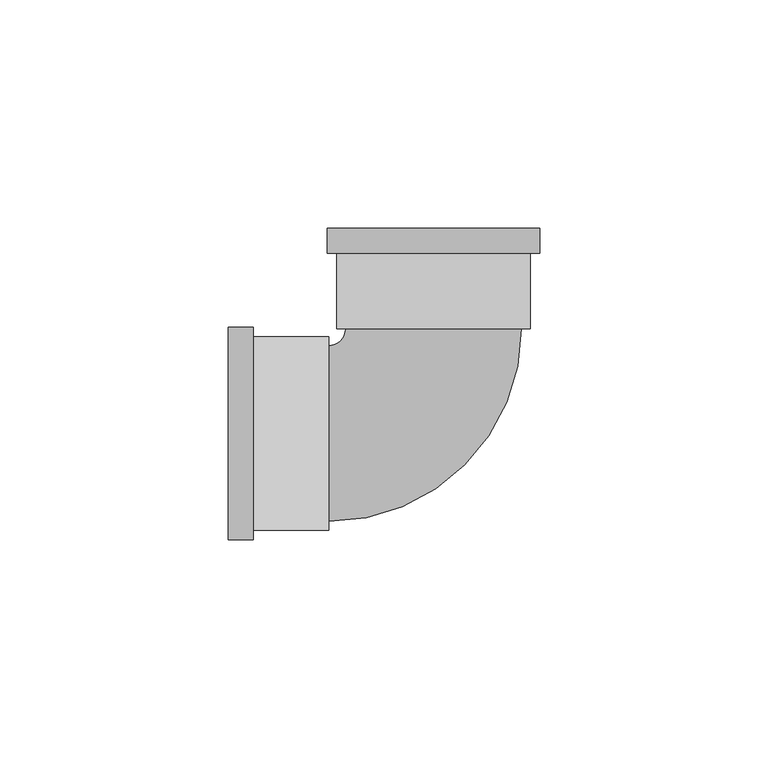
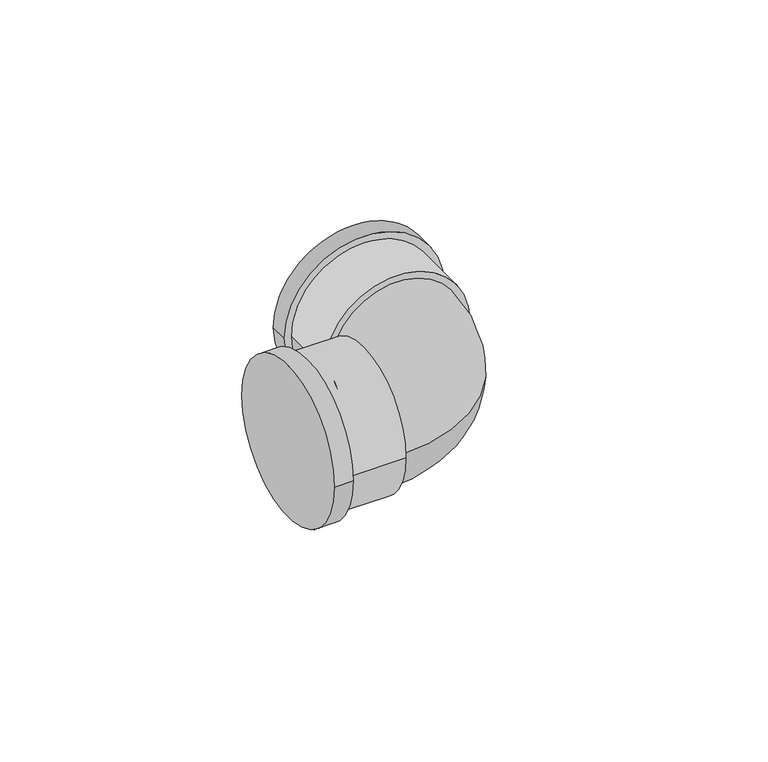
"""IFC4 building model written with IfcOpenShell, lengths in millimetres: pipe fitting geometry, Cotovelo - PVC - CW : Padrão."""

from ifc_helpers import new_model, si_unit, point, frame, origin, place, context, project, spatial, circle_curve, ellipse_curve, trimmed, source, transform, mapped, element, save
from ifc_brep_helpers import plane_surface, cylinder_surface, revolved_surface, advanced_brep


def pipe_fitting_753a0326(model_context):
    return source(origin(), model_context, "Body", "AdvancedBrep", [
        advanced_brep(
        [(-45.0002447, -23.2925, 0.0), (-45.0002447, 23.2925, 0.0), (-39.5002447, -23.2925, 0.0), (-39.5002447, 23.2925, 0.0), (-39.5002447, -21.175, 0.0), (-39.5002447, 21.175, 0.0), (-23.0002447, 21.175, 0.0), (-23.0002447, -21.175, 0.0), (-23.0002447, -19.25, 0.0), (-23.0002447, 19.25, 0.0), (-19.2502447, 23.0000399, 0.0), (19.2497553, 23.0004494, 0.0), (21.1747553, 23.0004699, 0.0), (-21.1752447, 23.0000194, 0.0), (-23.2929787, 44.9999969, 0.0), (23.2920213, 45.0004924, 0.0), (21.1745798, 39.5004699, 0.0), (-21.1754202, 39.5000194, 0.0), (-23.2929202, 39.4999969, 0.0), (23.2920798, 39.5004924, 0.0)],
        [
            (0, 1, circle_curve(frame((-45.0002447, 0.0, 0.0), z_axis=(-1.0, 0.0, 0.0), x_axis=(0.0, 1.0, 0.0)), 23.2925)),
            (1, 0, circle_curve(frame((-45.0002447, 0.0, 0.0), z_axis=(-1.0, 0.0, 0.0), x_axis=(0.0, 1.0, 0.0)), 23.2925)),
            (2, 3, circle_curve(frame((-39.5002447, 0.0, 0.0), z_axis=(1.0, 0.0, 0.0), x_axis=(0.0, 1.0, 0.0)), 23.2925)),
            (3, 2, circle_curve(frame((-39.5002447, 0.0, 0.0), z_axis=(1.0, 0.0, 0.0), x_axis=(0.0, 1.0, 0.0)), 23.2925)),
            (4, 5, circle_curve(frame((-39.5002447, 0.0, 0.0), z_axis=(-1.0, 0.0, 0.0), x_axis=(0.0, -1.0, 0.0)), 21.175)),
            (5, 4, circle_curve(frame((-39.5002447, 0.0, 0.0), z_axis=(-1.0, 0.0, 0.0), x_axis=(0.0, -1.0, 0.0)), 21.175)),
            (0, 2),
            (3, 1),
            (6, 7, circle_curve(frame((-23.0002447, 0.0, 0.0), z_axis=(1.0, 0.0, 0.0), x_axis=(0.0, -1.0, 0.0)), 21.175)),
            (7, 6, circle_curve(frame((-23.0002447, 0.0, 0.0), z_axis=(1.0, 0.0, 0.0), x_axis=(0.0, -1.0, 0.0)), 21.175)),
            (8, 9, circle_curve(frame((-23.0002447, 0.0, 0.0), z_axis=(-1.0, 0.0, 0.0), x_axis=(0.0, 1.0, 0.0)), 19.25)),
            (9, 8, circle_curve(frame((-23.0002447, 0.0, 0.0), z_axis=(-1.0, 0.0, 0.0), x_axis=(0.0, 1.0, 0.0)), 19.25)),
            (6, 5),
            (4, 7),
            (10, 9, circle_curve(frame((-23.0002447, 23.0, 0.0), z_axis=(0.0, 0.0, -1.0), x_axis=(0.0, -1.0, 0.0)), 3.75)),
            (8, 11, circle_curve(frame((-23.0002447, 23.0, 0.0), z_axis=(0.0, 0.0, 1.0), x_axis=(0.0, -1.0, 0.0)), 42.25)),
            (11, 10, circle_curve(frame((-0.0002447, 23.0002447, 0.0), z_axis=(1.0637566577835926e-05, -0.999999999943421, 0.0), x_axis=(-0.999999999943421, -1.0637566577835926e-05, 0.0)), 19.25)),
            (10, 11, circle_curve(frame((-0.0002447, 23.0002447, 0.0), z_axis=(1.0637566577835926e-05, -0.999999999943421, 0.0), x_axis=(-0.999999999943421, -1.0637566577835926e-05, 0.0)), 19.25)),
            (12, 13, circle_curve(frame((-0.0002447, 23.0002447, 0.0), z_axis=(1.0637567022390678e-05, -0.9999999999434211, 0.0), x_axis=(-0.9999999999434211, -1.0637567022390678e-05, 0.0)), 21.175)),
            (13, 12, circle_curve(frame((-0.0002447, 23.0002447, 0.0), z_axis=(1.0637567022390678e-05, -0.9999999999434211, 0.0), x_axis=(-0.9999999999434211, -1.0637567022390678e-05, 0.0)), 21.175)),
            (14, 15, circle_curve(frame((-0.0004787, 45.0002447, 0.0), z_axis=(-1.0637566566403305e-05, 0.9999999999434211, 0.0), x_axis=(0.9999999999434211, 1.0637566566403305e-05, 0.0)), 23.2925)),
            (15, 14, circle_curve(frame((-0.0004787, 45.0002447, 0.0), z_axis=(-1.0637566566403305e-05, 0.9999999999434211, 0.0), x_axis=(0.9999999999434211, 1.0637566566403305e-05, 0.0)), 23.2925)),
            (12, 16),
            (16, 17, circle_curve(frame((-0.0004202, 39.5002447, 0.0), z_axis=(1.0637567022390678e-05, -0.9999999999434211, 0.0), x_axis=(-0.9999999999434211, -1.0637567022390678e-05, 0.0)), 21.175)),
            (17, 13),
            (17, 16, circle_curve(frame((-0.0004202, 39.5002447, 0.0), z_axis=(1.0637567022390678e-05, -0.9999999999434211, 0.0), x_axis=(-0.9999999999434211, -1.0637567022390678e-05, 0.0)), 21.175)),
            (18, 19, circle_curve(frame((-0.0004202, 39.5002447, 0.0), z_axis=(1.0637566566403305e-05, -0.9999999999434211, 0.0), x_axis=(0.9999999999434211, 1.0637566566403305e-05, 0.0)), 23.2925)),
            (19, 18, circle_curve(frame((-0.0004202, 39.5002447, 0.0), z_axis=(1.0637566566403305e-05, -0.9999999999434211, 0.0), x_axis=(0.9999999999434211, 1.0637566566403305e-05, 0.0)), 23.2925)),
            (14, 18),
            (19, 15),
        ],
        [
            plane_surface(frame((-45.0002447, 0.0, 0.0), z_axis=(-1.0, 0.0, 0.0), x_axis=(0.0, 0.0, 1.0))),
            plane_surface(frame((-39.5002447, 0.0, 0.0), z_axis=(1.0, 0.0, 0.0), x_axis=(0.0, 0.0, 1.0))),
            cylinder_surface(frame((-45.0002447, 0.0, 0.0), z_axis=(-1.0, 0.0, 0.0), x_axis=(0.0, 1.0, 0.0)), 23.2925),
            plane_surface(frame((-23.0002447, 0.0, 0.0), z_axis=(1.0, 0.0, 0.0), x_axis=(0.0, 0.0, 1.0))),
            cylinder_surface(frame((-23.0002447, 0.0, 0.0), z_axis=(1.0, 0.0, 0.0), x_axis=(0.0, -1.0, 0.0)), 21.175),
            revolved_surface(trimmed(ellipse_curve(frame((-23.0002447, 0.0, 0.0), z_axis=(-1.0, 0.0, 0.0), x_axis=(0.0, 1.0, 0.0)), 19.25, 19.25), [point((-23.0002447, -19.25, 0.0))], [point((-23.0002447, 19.25, 0.0))], True, "CARTESIAN"), (-23.0002447, 23.0, 0.0), (0.0, 0.0, 1.0)),
            revolved_surface(trimmed(ellipse_curve(frame((-23.0002447, 0.0, 0.0), z_axis=(-1.0, 0.0, 0.0), x_axis=(0.0, 1.0, 0.0)), 19.25, 19.25), [point((-23.0002447, 19.25, 0.0))], [point((-23.0002447, -19.25, 0.0))], True, "CARTESIAN"), (-23.0002447, 23.0, 0.0), (0.0, 0.0, 1.0)),
            plane_surface(frame((-0.0002447, 23.0002447, 0.0), z_axis=(1.0637567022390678e-05, -0.9999999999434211, 0.0), x_axis=(0.0, 0.0, 1.0))),
            plane_surface(frame((-0.0004787, 45.0002447, 0.0), z_axis=(-1.0637567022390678e-05, 0.9999999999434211, 0.0), x_axis=(0.0, 0.0, 1.0))),
            cylinder_surface(frame((-0.0002447, 23.0002447, 0.0), z_axis=(1.0637567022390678e-05, -0.9999999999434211, 0.0), x_axis=(-0.9999999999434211, -1.0637567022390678e-05, 0.0)), 21.175),
            plane_surface(frame((-0.0004202, 39.5002447, 0.0), z_axis=(1.0637566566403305e-05, -0.9999999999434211, 0.0), x_axis=(0.0, 0.0, 1.0))),
            cylinder_surface(frame((-0.0004787, 45.0002447, 0.0), z_axis=(-1.0637566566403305e-05, 0.9999999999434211, 0.0), x_axis=(0.9999999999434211, 1.0637566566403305e-05, 0.0)), 23.2925),
        ],
        [
            (0, [[1, 2]]),
            (1, [[3, 4], [5, 6]]),
            (2, [[-1, 7, -4, 8]]),
            (2, [[-2, -8, -3, -7]]),
            (3, [[9, 10], [11, 12]]),
            (4, [[-9, 13, -5, 14]]),
            (4, [[-10, -14, -6, -13]]),
            (5, [[15, -11, 16, 17]]),
            (6, [[-15, 18, -16, -12]]),
            (7, [[19, 20], [-17, -18]]),
            (8, [[21, 22]]),
            (9, [[-19, 23, 24, 25]]),
            (9, [[-20, -25, 26, -23]]),
            (10, [[27, 28], [-24, -26]]),
            (11, [[-21, 29, -28, 30]]),
            (11, [[-22, -30, -27, -29]]),
        ],
    ),
    ])


if __name__ == "__main__":
    model = new_model("IFC4")
    model_context = context("Model", 3, world=origin())
    ifc_project = project(units=[si_unit("LENGTHUNIT", "METRE", prefix="MILLI")], contexts=[model_context])
    site = spatial("IfcSite", under=ifc_project)
    building = spatial("IfcBuilding", under=site)
    placement = place(None, origin())
    pipe_fitting_shape = pipe_fitting_753a0326(model_context)
    element("IfcPipeFitting", 1, ObjectType="Cotovelo - PVC - CW : Padrão", at=placement, inside=building, context=model_context, shape_type="MappedRepresentation", body=[
        mapped(pipe_fitting_shape, transform((0.0, 0.0, 0.0), x_axis=(1.0, 0.0, 0.0), y_axis=(0.0, 1.0, 0.0), z_axis=(0.0, 0.0, 1.0))),
    ])
    save(model, "model.ifc")
